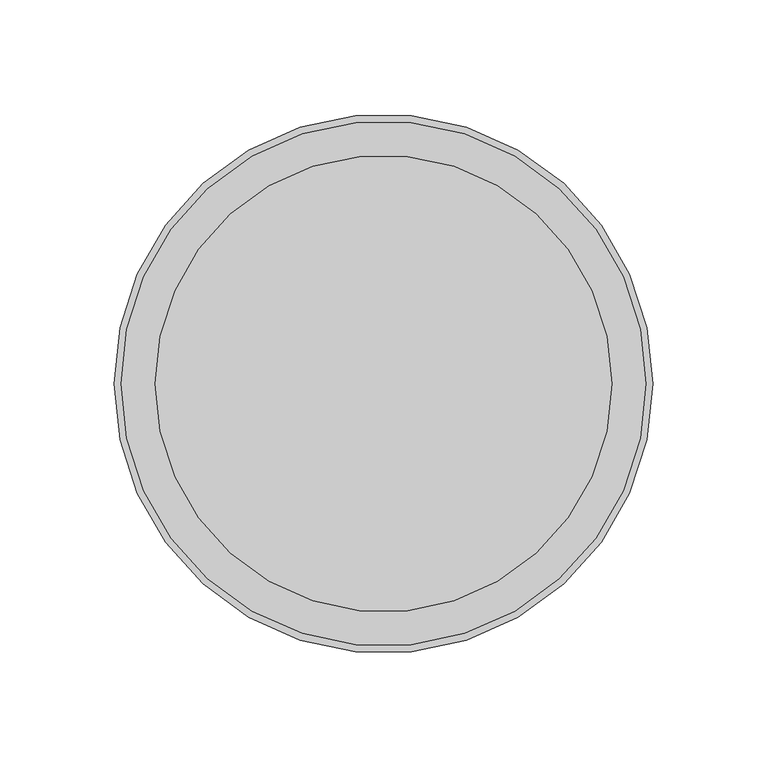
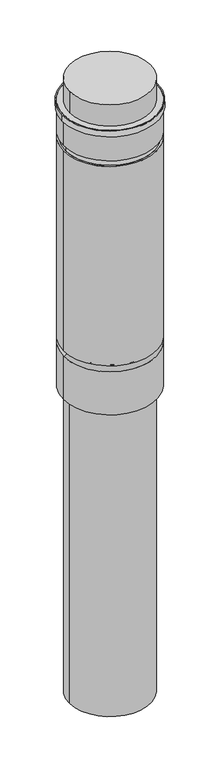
"""IFC4 building model written with IfcOpenShell, lengths in millimetres: air terminal geometry, RSFen_AIR_WPB_flue gas rooftop terminal_M&G : PP Black, ø200."""

from ifc_helpers import new_model, si_unit, point, frame, origin, origin_with_axes, origin_2d, place, context, project, spatial, circle_curve, ellipse_curve, trimmed, segment, composite_curve, outline, extrude, source, transform, mapped, element, save
from ifc_brep_helpers import plane_surface, cylinder_surface, revolved_surface, advanced_brep


def air_terminal_aa595a08(model_context):
    return source(origin(), model_context, "Body", "SolidModel", [
        advanced_brep(
        [(-115.0, 0.0, 744.0), (115.0, 0.0, 744.0), (-115.0, 0.0, 0.0), (115.0, 0.0, 0.0), (-115.0, 0.0, 664.0), (115.0, 0.0, 664.0), (115.0, 0.0, 112.5), (-115.0, 0.0, 112.5), (115.0, 0.0, 649.0), (-115.0, 0.0, 649.0), (-115.0, 0.0, 127.5), (115.0, 0.0, 127.5), (110.0, 0.0, 664.0), (110.0, 0.0, 649.0), (-110.0, 0.0, 649.0), (-110.0, 0.0, 664.0)],
        [
            (0, 1, circle_curve(frame((0.0, 0.0, 744.0), z_axis=(0.0, 0.0, 1.0), x_axis=(1.0, 0.0, 0.0)), 115.0)),
            (1, 0, circle_curve(frame((0.0, 0.0, 744.0), z_axis=(0.0, 0.0, 1.0), x_axis=(1.0, 0.0, 0.0)), 115.0)),
            (2, 3, circle_curve(frame((0.0, 0.0, 0.0), z_axis=(0.0, 0.0, -1.0), x_axis=(1.0, 0.0, 0.0)), 115.0)),
            (3, 2, circle_curve(frame((0.0, 0.0, 0.0), z_axis=(0.0, 0.0, -1.0), x_axis=(1.0, 0.0, 0.0)), 115.0)),
            (0, 4),
            (4, 5, circle_curve(frame((0.0, 0.0, 664.0), z_axis=(0.0, 0.0, 1.0), x_axis=(1.0, 0.0, 0.0)), 115.0)),
            (5, 1),
            (3, 6),
            (6, 7, circle_curve(frame((0.0, 0.0, 112.5), z_axis=(0.0, 0.0, -1.0), x_axis=(1.0, 0.0, 0.0)), 115.0)),
            (7, 2),
            (8, 9, circle_curve(frame((0.0, 0.0, 649.0), z_axis=(0.0, 0.0, -1.0), x_axis=(1.0, 0.0, 0.0)), 115.0)),
            (9, 10),
            (10, 11, circle_curve(frame((0.0, 0.0, 127.5), z_axis=(0.0, 0.0, 1.0), x_axis=(1.0, 0.0, 0.0)), 115.0)),
            (11, 8),
            (5, 4, circle_curve(frame((0.0, 0.0, 664.0), z_axis=(0.0, 0.0, 1.0), x_axis=(1.0, 0.0, 0.0)), 115.0)),
            (7, 6, circle_curve(frame((0.0, 0.0, 112.5), z_axis=(0.0, 0.0, -1.0), x_axis=(1.0, 0.0, 0.0)), 115.0)),
            (9, 8, circle_curve(frame((0.0, 0.0, 649.0), z_axis=(0.0, 0.0, -1.0), x_axis=(1.0, 0.0, 0.0)), 115.0)),
            (11, 10, circle_curve(frame((0.0, 0.0, 127.5), z_axis=(0.0, 0.0, 1.0), x_axis=(1.0, 0.0, 0.0)), 115.0)),
            (12, 13),
            (13, 14, circle_curve(frame((0.0, 0.0, 649.0), z_axis=(0.0, 0.0, 1.0), x_axis=(-1.0, 0.0, 0.0)), 110.0)),
            (14, 15),
            (15, 12, circle_curve(frame((0.0, 0.0, 664.0), z_axis=(0.0, 0.0, -1.0), x_axis=(-1.0, 0.0, 0.0)), 110.0)),
            (15, 12, circle_curve(frame((0.0, 0.0, 664.0), z_axis=(0.0, 0.0, 1.0), x_axis=(1.0, 0.0, 0.0)), 110.0)),
            (13, 14, circle_curve(frame((0.0, 0.0, 649.0), z_axis=(0.0, 0.0, -1.0), x_axis=(1.0, 0.0, 0.0)), 110.0)),
            (7, 10, circle_curve(frame((-115.0, 0.0, 120.0), z_axis=(0.0, -1.0, 0.0), x_axis=(-1.0, 0.0, 0.0)), 7.5)),
            (11, 6, circle_curve(frame((115.0, 0.0, 120.0), z_axis=(0.0, -1.0, 0.0), x_axis=(1.0, 0.0, 0.0)), 7.5)),
        ],
        [
            plane_surface(frame((115.0, 0.0, 744.0), z_axis=(0.0, 0.0, 1.0), x_axis=(0.0, 1.0, 0.0))),
            plane_surface(frame((115.0, 0.0, 0.0), z_axis=(0.0, 0.0, -1.0), x_axis=(0.0, -1.0, 0.0))),
            cylinder_surface(origin_with_axes(), 115.0),
            cylinder_surface(frame((0.0, 0.0, 744.0), z_axis=(0.0, 0.0, -1.0), x_axis=(-1.0, 0.0, 0.0)), 110.0),
            plane_surface(frame((0.0, 0.0, 664.0), z_axis=(0.0, 0.0, -1.0), x_axis=(1.0, 0.0, 0.0))),
            plane_surface(frame((0.0, 0.0, 649.0), z_axis=(0.0, 0.0, 1.0), x_axis=(1.0, 0.0, 0.0))),
            cylinder_surface(frame((0.0, 0.0, 744.0), z_axis=(0.0, 0.0, -1.0), x_axis=(1.0, 0.0, 0.0)), 110.0),
            revolved_surface(trimmed(ellipse_curve(frame((115.0, 0.0, 120.0), z_axis=(0.0, 1.0, 0.0), x_axis=(1.0, 0.0, 0.0)), 7.5, 7.5), [point((115.0, 0.0, 112.5))], [point((115.0, 0.0, 127.5))], True, "CARTESIAN"), (0.0, 0.0, 0.0), (0.0, 0.0, 1.0)),
            revolved_surface(trimmed(ellipse_curve(frame((-115.0, 0.0, 120.0), z_axis=(0.0, -1.0, 0.0), x_axis=(-1.0, 0.0, 0.0)), 7.5, 7.5), [point((-115.0, 0.0, 112.5))], [point((-115.0, 0.0, 127.5))], True, "CARTESIAN"), (0.0, 0.0, 0.0), (0.0, 0.0, 1.0)),
        ],
        [
            (0, [[1, 2]]),
            (1, [[3, 4]]),
            (2, [[-1, 5, 6, 7]]),
            (2, [[-4, 8, 9, 10]]),
            (2, [[11, 12, 13, 14]]),
            (2, [[-2, -7, 15, -5]]),
            (2, [[-3, -10, 16, -8]]),
            (2, [[17, -14, 18, -12]]),
            (3, [[19, 20, 21, 22]]),
            (4, [[-6, -15], [-22, 23]]),
            (5, [[-11, -17], [-20, 24]]),
            (6, [[-19, -23, -21, -24]]),
            (7, [[25, -18, 26, -16]]),
            (8, [[-25, -9, -26, -13]]),
        ],
    ),
        extrude(outline(composite_curve([segment(trimmed(circle_curve(origin_2d(), 118.0), [point((-118.0, 0.0))], [point((118.0, 0.0))], False, "CARTESIAN"), True, "CONTINUOUS"), segment(trimmed(circle_curve(origin_2d(), 118.0), [point((118.0, 0.0))], [point((-118.0, 0.0))], False, "CARTESIAN"), True, "CONTINUOUS")], self_intersect=False), holes=[composite_curve([segment(trimmed(circle_curve(origin_2d(), 115.0), [point((115.0, 0.0))], [point((-115.0, 0.0))], True, "CARTESIAN"), True, "CONTINUOUS"), segment(trimmed(circle_curve(origin_2d(), 115.0), [point((-115.0, 0.0))], [point((115.0, 0.0))], True, "CARTESIAN"), True, "CONTINUOUS")], self_intersect=False)]), frame((0.0, 0.0, 729.0), z_axis=(0.0, 0.0, 1.0), x_axis=(1.0, 0.0, 0.0)), (0.0, 0.0, 1.0), 15.0),
        extrude(outline(composite_curve([segment(trimmed(circle_curve(origin_2d(), 100.0), [point((100.0, 0.0))], [point((-100.0, 0.0))], False, "CARTESIAN"), True, "CONTINUOUS"), segment(trimmed(circle_curve(origin_2d(), 100.0), [point((-100.0, 0.0))], [point((100.0, 0.0))], False, "CARTESIAN"), True, "CONTINUOUS")], self_intersect=False)), frame((0.0, 0.0, 744.0), z_axis=(0.0, 0.0, 1.0), x_axis=(1.0, 0.0, 0.0)), (0.0, 0.0, 1.0), 56.0),
        extrude(outline(composite_curve([segment(trimmed(circle_curve(origin_2d(), 100.0), [point((-100.0, 0.0))], [point((100.0, 0.0))], False, "CARTESIAN"), True, "CONTINUOUS"), segment(trimmed(circle_curve(origin_2d(), 100.0), [point((100.0, 0.0))], [point((-100.0, 0.0))], False, "CARTESIAN"), True, "CONTINUOUS")], self_intersect=False)), frame((0.0, 0.0, -800.0), z_axis=(0.0, 0.0, 1.0), x_axis=(1.0, 0.0, 0.0)), (0.0, 0.0, 1.0), 800.0),
    ])


if __name__ == "__main__":
    model = new_model("IFC4")
    model_context = context("Model", 3, world=origin())
    ifc_project = project(units=[si_unit("LENGTHUNIT", "METRE", prefix="MILLI")], contexts=[model_context])
    site = spatial("IfcSite", under=ifc_project)
    building = spatial("IfcBuilding", under=site)
    placement = place(None, origin())
    air_terminal_shape = air_terminal_aa595a08(model_context)
    element("IfcAirTerminal", 1, ObjectType="RSFen_AIR_WPB_flue gas rooftop terminal_M&G : PP Black, ø200", at=placement, inside=building, context=model_context, shape_type="MappedRepresentation", body=[
        mapped(air_terminal_shape, transform((0.0, 0.0, 0.0), x_axis=(1.0, 0.0, 0.0), y_axis=(0.0, 1.0, 0.0), z_axis=(0.0, 0.0, 1.0))),
    ])
    save(model, "model.ifc")
